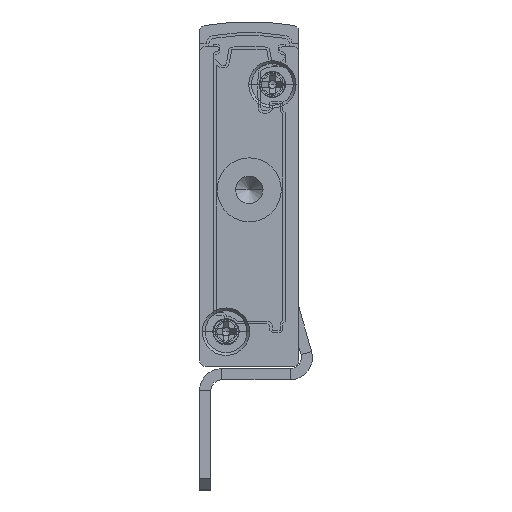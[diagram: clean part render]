
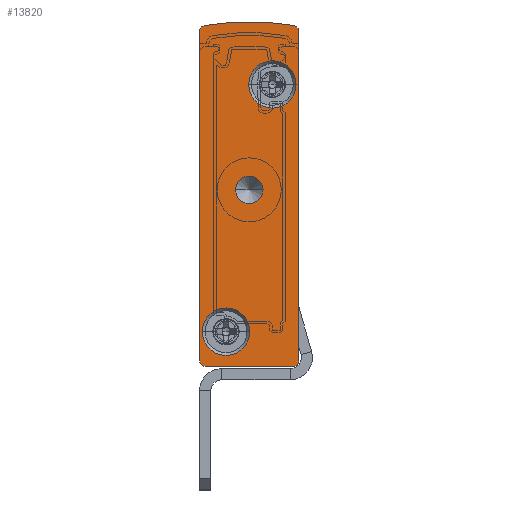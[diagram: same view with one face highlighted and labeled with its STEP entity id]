
A CAD part, front view. The second image highlights one B-rep face of the part: STEP entity #13820.
In plain terms, the highlighted planar face has unit normal (0, -1, 0).
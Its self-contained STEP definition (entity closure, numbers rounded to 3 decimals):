
#188 = CIRCLE ( 'NONE', #18674, 2.15 ) ;
#359 = CARTESIAN_POINT ( 'NONE',  ( -4.5, -2.5, 16. ) ) ;
#421 = DIRECTION ( 'NONE',  ( 0., 1., 0. ) ) ;
#440 = DIRECTION ( 'NONE',  ( 0., -1., 0. ) ) ;
#628 = VERTEX_POINT ( 'NONE', #34969 ) ;
#630 = VERTEX_POINT ( 'NONE', #29420 ) ;
#831 = CARTESIAN_POINT ( 'NONE',  ( -4.55, -2.5, 25.55 ) ) ;
#961 = CIRCLE ( 'NONE', #13531, 0.5 ) ;
#1950 = VERTEX_POINT ( 'NONE', #23538 ) ;
#2128 = CIRCLE ( 'NONE', #15596, 0.5 ) ;
#2221 = CARTESIAN_POINT ( 'NONE',  ( -0.25, -2.5, 25.55 ) ) ;
#2227 = FACE_BOUND ( 'NONE', #23856, .T. ) ;
#2868 = VERTEX_POINT ( 'NONE', #831 ) ;
#3405 = CARTESIAN_POINT ( 'NONE',  ( -0.5, -2.5, 0.5 ) ) ;
#3462 = VERTEX_POINT ( 'NONE', #22850 ) ;
#3523 = DIRECTION ( 'NONE',  ( 1., 0., 0. ) ) ;
#3674 = DIRECTION ( 'NONE',  ( 0., 1., 0. ) ) ;
#3724 = CARTESIAN_POINT ( 'NONE',  ( -8.75, -2.5, 3.15 ) ) ;
#3913 = DIRECTION ( 'NONE',  ( 0., 1., 0. ) ) ;
#3952 = ORIENTED_EDGE ( 'NONE', *, *, #5012, .F. ) ;
#4566 = CARTESIAN_POINT ( 'NONE',  ( -0.5, -2.5, 0. ) ) ;
#5012 = EDGE_CURVE ( 'NONE', #27381, #2868, #5331, .T. ) ;
#5331 = CIRCLE ( 'NONE', #27269, 2.15 ) ;
#5333 = DIRECTION ( 'NONE',  ( -1., 0., 0. ) ) ;
#5951 = AXIS2_PLACEMENT_3D ( 'NONE', #359, #3674, #35420 ) ;
#6525 = DIRECTION ( 'NONE',  ( -1., 0., 0. ) ) ;
#6699 = CARTESIAN_POINT ( 'NONE',  ( -3.25, -2.5, 16. ) ) ;
#6897 = CARTESIAN_POINT ( 'NONE',  ( -4.45, -2.5, 3.15 ) ) ;
#7205 = FACE_BOUND ( 'NONE', #19887, .T. ) ;
#7387 = DIRECTION ( 'NONE',  ( 0., -1., 0. ) ) ;
#7528 = DIRECTION ( 'NONE',  ( -1., 0., 0. ) ) ;
#8256 = EDGE_CURVE ( 'NONE', #630, #16223, #19238, .T. ) ;
#8775 = VERTEX_POINT ( 'NONE', #24008 ) ;
#9197 = DIRECTION ( 'NONE',  ( 0., 1., 0. ) ) ;
#9353 = VERTEX_POINT ( 'NONE', #4566 ) ;
#9545 = CARTESIAN_POINT ( 'NONE',  ( -8.5, -2.5, 30.402 ) ) ;
#10239 = CARTESIAN_POINT ( 'NONE',  ( -9., -2.5, 0.5 ) ) ;
#10250 = ORIENTED_EDGE ( 'NONE', *, *, #32959, .F. ) ;
#10658 = EDGE_CURVE ( 'NONE', #3462, #28527, #961, .T. ) ;
#11733 = CIRCLE ( 'NONE', #21860, 0.5 ) ;
#11860 = VECTOR ( 'NONE', #31013, 1000. ) ;
#12110 = CARTESIAN_POINT ( 'NONE',  ( -9., -2.5, 30.402 ) ) ;
#12494 = VECTOR ( 'NONE', #31445, 1000. ) ;
#12904 = EDGE_LOOP ( 'NONE', ( #29852, #16988, #22065, #28840, #25642, #30347, #23368, #28981 ) ) ;
#13531 = AXIS2_PLACEMENT_3D ( 'NONE', #21559, #3913, #36022 ) ;
#13708 = LINE ( 'NONE', #25274, #11860 ) ;
#13780 = VERTEX_POINT ( 'NONE', #3724 ) ;
#13820 = ADVANCED_FACE ( 'NONE', ( #19945, #2227, #15006, #7205 ), #15192, .F. ) ;
#15006 = FACE_OUTER_BOUND ( 'NONE', #12904, .T. ) ;
#15062 = CARTESIAN_POINT ( 'NONE',  ( -8.592, -2.5, 30.893 ) ) ;
#15192 = PLANE ( 'NONE',  #33852 ) ;
#15360 = DIRECTION ( 'NONE',  ( -1., 0., 0. ) ) ;
#15596 = AXIS2_PLACEMENT_3D ( 'NONE', #3405, #9197, #6525 ) ;
#15926 = DIRECTION ( 'NONE',  ( 0., 1., 0. ) ) ;
#16223 = VERTEX_POINT ( 'NONE', #6699 ) ;
#16988 = ORIENTED_EDGE ( 'NONE', *, *, #21586, .F. ) ;
#17055 = CARTESIAN_POINT ( 'NONE',  ( -8.5, -2.5, 30.402 ) ) ;
#17848 = CARTESIAN_POINT ( 'NONE',  ( -2.4, -2.5, 25.55 ) ) ;
#17953 = ORIENTED_EDGE ( 'NONE', *, *, #8256, .T. ) ;
#18674 = AXIS2_PLACEMENT_3D ( 'NONE', #17848, #440, #3523 ) ;
#18996 = CARTESIAN_POINT ( 'NONE',  ( 0., -2.5, 30.402 ) ) ;
#19238 = CIRCLE ( 'NONE', #23534, 1.25 ) ;
#19397 = VERTEX_POINT ( 'NONE', #15062 ) ;
#19887 = EDGE_LOOP ( 'NONE', ( #17953, #25645 ) ) ;
#19945 = FACE_BOUND ( 'NONE', #20691, .T. ) ;
#19963 = DIRECTION ( 'NONE',  ( 0., 1., 0. ) ) ;
#20003 = AXIS2_PLACEMENT_3D ( 'NONE', #20787, #23691, #32625 ) ;
#20675 = DIRECTION ( 'NONE',  ( 1., 0., 0. ) ) ;
#20691 = EDGE_LOOP ( 'NONE', ( #3952, #26707 ) ) ;
#20787 = CARTESIAN_POINT ( 'NONE',  ( -6.6, -2.5, 3.15 ) ) ;
#20956 = CIRCLE ( 'NONE', #32063, 0.5 ) ;
#21135 = EDGE_CURVE ( 'NONE', #2868, #27381, #188, .T. ) ;
#21559 = CARTESIAN_POINT ( 'NONE',  ( -8.5, -2.5, 0.5 ) ) ;
#21586 = EDGE_CURVE ( 'NONE', #28527, #8775, #23758, .T. ) ;
#21855 = CIRCLE ( 'NONE', #35801, 23.658 ) ;
#21860 = AXIS2_PLACEMENT_3D ( 'NONE', #17055, #19963, #5333 ) ;
#21911 = EDGE_CURVE ( 'NONE', #9353, #3462, #13708, .T. ) ;
#22005 = DIRECTION ( 'NONE',  ( 1., 0., 0. ) ) ;
#22065 = ORIENTED_EDGE ( 'NONE', *, *, #10658, .F. ) ;
#22850 = CARTESIAN_POINT ( 'NONE',  ( -8.5, -2.5, 0. ) ) ;
#23275 = ORIENTED_EDGE ( 'NONE', *, *, #26474, .F. ) ;
#23368 = ORIENTED_EDGE ( 'NONE', *, *, #34823, .F. ) ;
#23534 = AXIS2_PLACEMENT_3D ( 'NONE', #30050, #15926, #27470 ) ;
#23538 = CARTESIAN_POINT ( 'NONE',  ( -0.408, -2.5, 30.893 ) ) ;
#23691 = DIRECTION ( 'NONE',  ( 0., -1., 0. ) ) ;
#23758 = LINE ( 'NONE', #12110, #30616 ) ;
#23856 = EDGE_LOOP ( 'NONE', ( #10250, #23275 ) ) ;
#23923 = DIRECTION ( 'NONE',  ( -1., 0., 0. ) ) ;
#23944 = CARTESIAN_POINT ( 'NONE',  ( -0.5, -2.5, 30.402 ) ) ;
#24008 = CARTESIAN_POINT ( 'NONE',  ( -9., -2.5, 30.402 ) ) ;
#25167 = DIRECTION ( 'NONE',  ( 0., 1., 0. ) ) ;
#25274 = CARTESIAN_POINT ( 'NONE',  ( -8.5, -2.5, 0. ) ) ;
#25642 = ORIENTED_EDGE ( 'NONE', *, *, #36083, .F. ) ;
#25645 = ORIENTED_EDGE ( 'NONE', *, *, #37662, .T. ) ;
#26474 = EDGE_CURVE ( 'NONE', #13780, #36174, #27505, .T. ) ;
#26707 = ORIENTED_EDGE ( 'NONE', *, *, #21135, .F. ) ;
#27269 = AXIS2_PLACEMENT_3D ( 'NONE', #32497, #29590, #20675 ) ;
#27381 = VERTEX_POINT ( 'NONE', #2221 ) ;
#27470 = DIRECTION ( 'NONE',  ( -1., 0., 0. ) ) ;
#27505 = CIRCLE ( 'NONE', #36736, 2.15 ) ;
#28067 = CIRCLE ( 'NONE', #20003, 2.15 ) ;
#28440 = LINE ( 'NONE', #29055, #12494 ) ;
#28527 = VERTEX_POINT ( 'NONE', #10239 ) ;
#28840 = ORIENTED_EDGE ( 'NONE', *, *, #21911, .F. ) ;
#28981 = ORIENTED_EDGE ( 'NONE', *, *, #29144, .F. ) ;
#29055 = CARTESIAN_POINT ( 'NONE',  ( 0., -2.5, 30.402 ) ) ;
#29144 = EDGE_CURVE ( 'NONE', #19397, #1950, #21855, .T. ) ;
#29157 = DIRECTION ( 'NONE',  ( 0., 0., 1. ) ) ;
#29420 = CARTESIAN_POINT ( 'NONE',  ( -5.75, -2.5, 16. ) ) ;
#29590 = DIRECTION ( 'NONE',  ( 0., -1., 0. ) ) ;
#29852 = ORIENTED_EDGE ( 'NONE', *, *, #35532, .F. ) ;
#30050 = CARTESIAN_POINT ( 'NONE',  ( -4.5, -2.5, 16. ) ) ;
#30310 = CARTESIAN_POINT ( 'NONE',  ( -6.6, -2.5, 3.15 ) ) ;
#30347 = ORIENTED_EDGE ( 'NONE', *, *, #36459, .F. ) ;
#30616 = VECTOR ( 'NONE', #29157, 1000. ) ;
#30626 = VERTEX_POINT ( 'NONE', #18996 ) ;
#31013 = DIRECTION ( 'NONE',  ( -1., 0., 0. ) ) ;
#31035 = CARTESIAN_POINT ( 'NONE',  ( -4.5, -2.5, 7.592 ) ) ;
#31445 = DIRECTION ( 'NONE',  ( 0., 0., -1. ) ) ;
#32063 = AXIS2_PLACEMENT_3D ( 'NONE', #23944, #32726, #15360 ) ;
#32497 = CARTESIAN_POINT ( 'NONE',  ( -2.4, -2.5, 25.55 ) ) ;
#32625 = DIRECTION ( 'NONE',  ( 1., 0., 0. ) ) ;
#32726 = DIRECTION ( 'NONE',  ( 0., 1., 0. ) ) ;
#32959 = EDGE_CURVE ( 'NONE', #36174, #13780, #28067, .T. ) ;
#33852 = AXIS2_PLACEMENT_3D ( 'NONE', #9545, #421, #23923 ) ;
#34007 = CIRCLE ( 'NONE', #5951, 1.25 ) ;
#34823 = EDGE_CURVE ( 'NONE', #1950, #30626, #20956, .T. ) ;
#34969 = CARTESIAN_POINT ( 'NONE',  ( 0., -2.5, 0.5 ) ) ;
#35420 = DIRECTION ( 'NONE',  ( -1., 0., 0. ) ) ;
#35532 = EDGE_CURVE ( 'NONE', #8775, #19397, #11733, .T. ) ;
#35801 = AXIS2_PLACEMENT_3D ( 'NONE', #31035, #25167, #7528 ) ;
#36022 = DIRECTION ( 'NONE',  ( -1., 0., 0. ) ) ;
#36083 = EDGE_CURVE ( 'NONE', #628, #9353, #2128, .T. ) ;
#36174 = VERTEX_POINT ( 'NONE', #6897 ) ;
#36459 = EDGE_CURVE ( 'NONE', #30626, #628, #28440, .T. ) ;
#36736 = AXIS2_PLACEMENT_3D ( 'NONE', #30310, #7387, #22005 ) ;
#37662 = EDGE_CURVE ( 'NONE', #16223, #630, #34007, .T. ) ;
